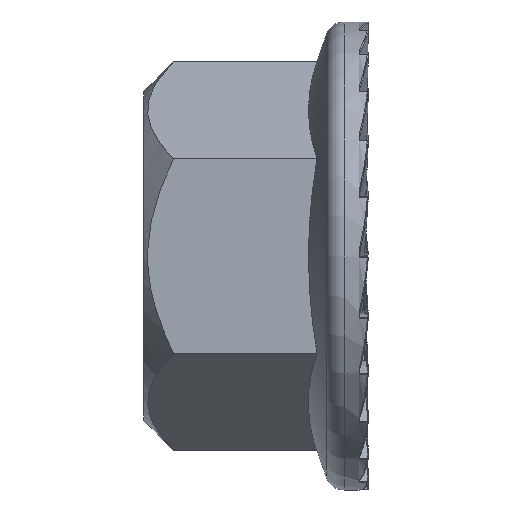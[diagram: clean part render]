
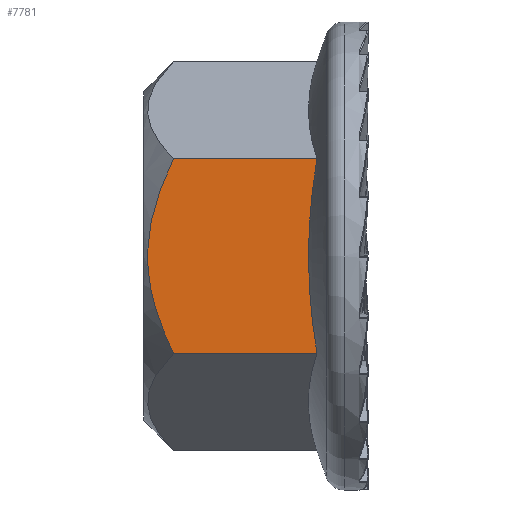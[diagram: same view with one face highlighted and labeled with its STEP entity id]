
A CAD part, left-side view. The second image highlights one B-rep face of the part: STEP entity #7781.
In plain terms, the highlighted planar face has unit normal (-1, 0, 0).
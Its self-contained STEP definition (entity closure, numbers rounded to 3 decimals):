
#612 = DIRECTION ( 'NONE',  ( 1., 0., 0. ) ) ;
#787 = CARTESIAN_POINT ( 'NONE',  ( -9., 10.628, 3.543 ) ) ;
#962 = ORIENTED_EDGE ( 'NONE', *, *, #2115, .T. ) ;
#1310 = CARTESIAN_POINT ( 'NONE',  ( -9., 11.5, 5.196 ) ) ;
#1389 = CARTESIAN_POINT ( 'NONE',  ( -9., 9.9, 5.196 ) ) ;
#1722 = CARTESIAN_POINT ( 'NONE',  ( -9., 11.284, -0.451 ) ) ;
#1944 = CARTESIAN_POINT ( 'NONE',  ( -9., 11.151, 1.806 ) ) ;
#1952 = CARTESIAN_POINT ( 'NONE',  ( -9., 10.289, 4.384 ) ) ;
#2115 = EDGE_CURVE ( 'NONE', #6380, #3695, #4468, .T. ) ;
#2121 = EDGE_LOOP ( 'NONE', ( #12299, #962, #3276, #3586 ) ) ;
#2238 = LINE ( 'NONE', #12104, #2975 ) ;
#2309 = DIRECTION ( 'NONE',  ( 0., -1., 0. ) ) ;
#2668 = DIRECTION ( 'NONE',  ( 0., -1., 0. ) ) ;
#2975 = VECTOR ( 'NONE', #2309, 1000. ) ;
#3276 = ORIENTED_EDGE ( 'NONE', *, *, #6863, .T. ) ;
#3586 = ORIENTED_EDGE ( 'NONE', *, *, #9525, .F. ) ;
#3695 = VERTEX_POINT ( 'NONE', #6624 ) ;
#3856 = FACE_OUTER_BOUND ( 'NONE', #2121, .T. ) ;
#3880 = CARTESIAN_POINT ( 'NONE',  ( -9., 2.317, 4.764 ) ) ;
#3946 = CARTESIAN_POINT ( 'NONE',  ( -9., 11.292, -0.221 ) ) ;
#3958 = CARTESIAN_POINT ( 'NONE',  ( -9., 2.531, -3.494 ) ) ;
#4015 = CARTESIAN_POINT ( 'NONE',  ( -9., 10.657, -3.54 ) ) ;
#4468 = B_SPLINE_CURVE_WITH_KNOTS ( 'NONE', 3,
 ( #5184, #10615, #1952, #787, #5107, #1944, #9397, #3946, #1722, #10463, #7122, #12658, #4015, #7196, #8396 ),
 .UNSPECIFIED., .F., .F.,
 ( 4, 2, 2, 2, 2, 1, 2, 4 ),
 ( 0.013, 0.014, 0.016, 0.019, 0.019, 0.02, 0.021, 0.024 ),
 .UNSPECIFIED. ) ;
#5107 = CARTESIAN_POINT ( 'NONE',  ( -9., 10.779, 3.11 ) ) ;
#5117 = CARTESIAN_POINT ( 'NONE',  ( -9., 2.496, 3.458 ) ) ;
#5184 = CARTESIAN_POINT ( 'NONE',  ( -9., 9.9, 5.196 ) ) ;
#5186 = CARTESIAN_POINT ( 'NONE',  ( -9., 2.697, -1.777 ) ) ;
#5629 = LINE ( 'NONE', #1310, #11685 ) ;
#5791 = VERTEX_POINT ( 'NONE', #6021 ) ;
#6021 = CARTESIAN_POINT ( 'NONE',  ( -9., 2.244, -5.196 ) ) ;
#6092 = PLANE ( 'NONE',  #13261 ) ;
#6115 = CARTESIAN_POINT ( 'NONE',  ( -9., 2.382, 4.331 ) ) ;
#6380 = VERTEX_POINT ( 'NONE', #1389 ) ;
#6624 = CARTESIAN_POINT ( 'NONE',  ( -9., 9.9, -5.196 ) ) ;
#6741 = VERTEX_POINT ( 'NONE', #6853 ) ;
#6853 = CARTESIAN_POINT ( 'NONE',  ( -9., 2.244, 5.196 ) ) ;
#6863 = EDGE_CURVE ( 'NONE', #3695, #5791, #2238, .T. ) ;
#7108 = DIRECTION ( 'NONE',  ( 0., 0., -1. ) ) ;
#7122 = CARTESIAN_POINT ( 'NONE',  ( -9., 11.173, -1.58 ) ) ;
#7196 = CARTESIAN_POINT ( 'NONE',  ( -9., 10.303, -4.389 ) ) ;
#7781 = ADVANCED_FACE ( 'NONE', ( #3856 ), #6092, .F. ) ;
#8338 = CARTESIAN_POINT ( 'NONE',  ( -9., 2.244, -5.196 ) ) ;
#8396 = CARTESIAN_POINT ( 'NONE',  ( -9., 9.9, -5.196 ) ) ;
#8675 = EDGE_CURVE ( 'NONE', #6380, #6741, #5629, .T. ) ;
#9397 = CARTESIAN_POINT ( 'NONE',  ( -9., 11.292, 0.918 ) ) ;
#9415 = B_SPLINE_CURVE_WITH_KNOTS ( 'NONE', 3,
 ( #13747, #3880, #6115, #5117, #11540, #9486, #13820, #5186, #3958, #8338 ),
 .UNSPECIFIED., .F., .F.,
 ( 4, 2, 2, 2, 4 ),
 ( 0.011, 0.013, 0.014, 0.017, 0.022 ),
 .UNSPECIFIED. ) ;
#9486 = CARTESIAN_POINT ( 'NONE',  ( -9., 2.662, 1.702 ) ) ;
#9525 = EDGE_CURVE ( 'NONE', #6741, #5791, #9415, .T. ) ;
#10463 = CARTESIAN_POINT ( 'NONE',  ( -9., 11.25, -0.905 ) ) ;
#10519 = CARTESIAN_POINT ( 'NONE',  ( -9., 11.5, -5.196 ) ) ;
#10615 = CARTESIAN_POINT ( 'NONE',  ( -9., 10.101, 4.794 ) ) ;
#11540 = CARTESIAN_POINT ( 'NONE',  ( -9., 2.545, 3.019 ) ) ;
#11685 = VECTOR ( 'NONE', #2668, 1000. ) ;
#12104 = CARTESIAN_POINT ( 'NONE',  ( -9., 11.5, -5.196 ) ) ;
#12299 = ORIENTED_EDGE ( 'NONE', *, *, #8675, .F. ) ;
#12658 = CARTESIAN_POINT ( 'NONE',  ( -9., 11.027, -2.24 ) ) ;
#13261 = AXIS2_PLACEMENT_3D ( 'NONE', #10519, #612, #7108 ) ;
#13747 = CARTESIAN_POINT ( 'NONE',  ( -9., 2.244, 5.196 ) ) ;
#13820 = CARTESIAN_POINT ( 'NONE',  ( -9., 2.701, 0.828 ) ) ;
